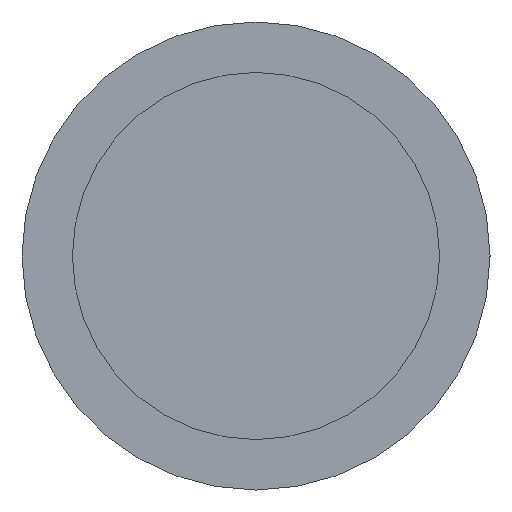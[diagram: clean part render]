
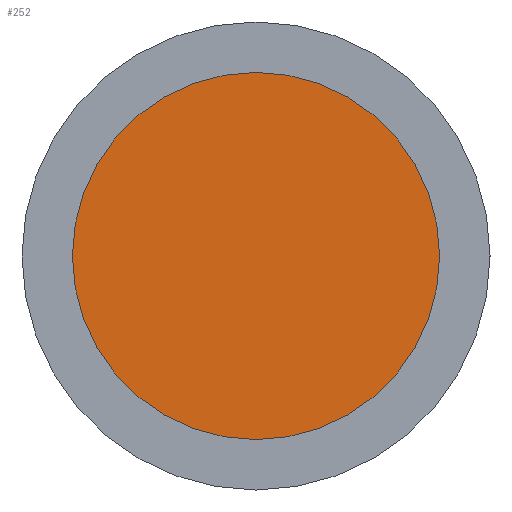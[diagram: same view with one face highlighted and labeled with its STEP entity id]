
A CAD part, left-side view. The second image highlights one B-rep face of the part: STEP entity #252.
In plain terms, the highlighted planar face has unit normal (-1, 0, 0).
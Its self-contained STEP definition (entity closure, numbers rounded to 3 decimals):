
#252 = ADVANCED_FACE( '', ( #494 ), #495, .T. );
#494 = FACE_OUTER_BOUND( '', #766, .T. );
#495 = PLANE( '', #767 );
#766 = EDGE_LOOP( '', ( #1012 ) );
#767 = AXIS2_PLACEMENT_3D( '', #1013, #1014, #1015 );
#1012 = ORIENTED_EDGE( '', *, *, #1273, .T. );
#1013 = CARTESIAN_POINT( '', ( -95., 0., 54. ) );
#1014 = DIRECTION( '', ( -1., 0., 0. ) );
#1015 = DIRECTION( '', ( 0., 0., 1. ) );
#1273 = EDGE_CURVE( '', #1407, #1407, #1408, .T. );
#1407 = VERTEX_POINT( '', #1561 );
#1408 = CIRCLE( '', #1562, 54. );
#1561 = CARTESIAN_POINT( '', ( -95., 0., 54. ) );
#1562 = AXIS2_PLACEMENT_3D( '', #1728, #1729, #1730 );
#1728 = CARTESIAN_POINT( '', ( -95., 0., 0. ) );
#1729 = DIRECTION( '', ( -1., 0., 0. ) );
#1730 = DIRECTION( '', ( 0., 0., 1. ) );
